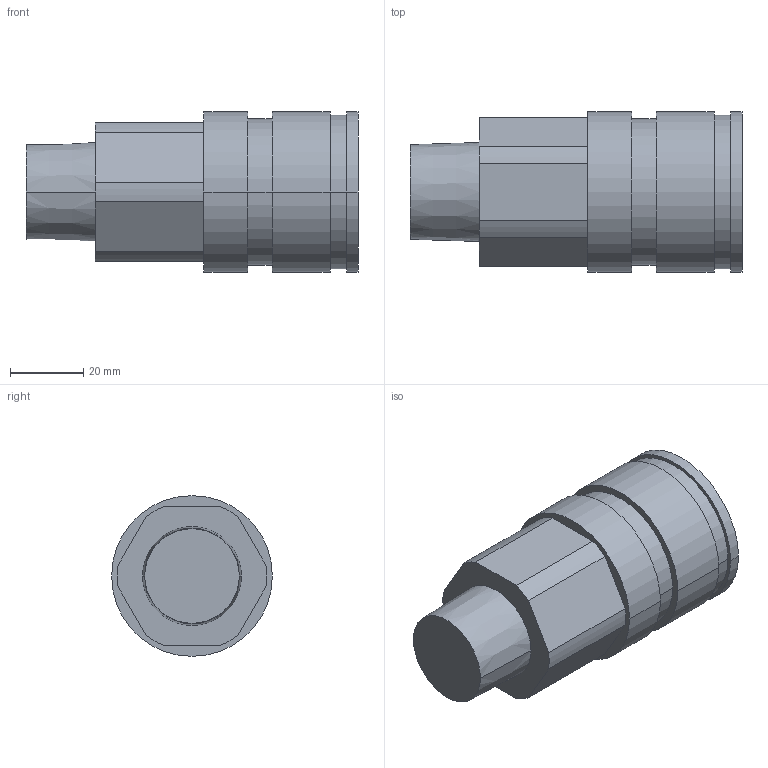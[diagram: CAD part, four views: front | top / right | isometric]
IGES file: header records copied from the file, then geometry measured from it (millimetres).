
Global section: file name: No Iges File Name specified; native system: Autodesk Inventor 2009; preprocessor: AutoDesk Inventor Iges Exporter R2009; author: y-shimohigashi; date: 20080701.161242; units: millimetre
Bounding box: 90.9 x 44 x 44 mm (x, y, z)
Volume: 85585.5 mm3; surface area: 18053.5 mm2
Topology: 1 solids, 1 shells, 35 faces, 78 edges, 52 vertices
Faces by surface type: cylinder 16, plane 15, cone 2, revolution 2
